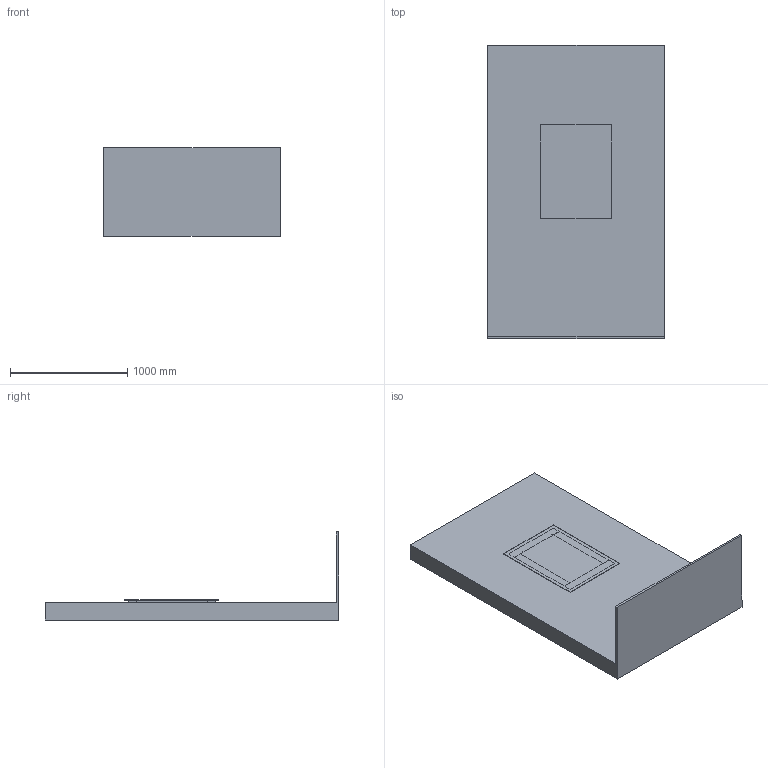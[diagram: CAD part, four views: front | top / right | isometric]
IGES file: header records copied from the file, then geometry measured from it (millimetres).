
Global section: file name: 3D Dosyası 60 cm,; native system: Autodesk Inventor 2024; preprocessor: unknown; author: pcs35; date: 20250627.131257; units: millimetre
Bounding box: 1500 x 2500 x 750 mm (x, y, z)
Volume: 585299071.2 mm3; surface area: 11922418.2 mm2
Topology: 20 solids, 20 shells, 1224 faces, 3044 edges, 1802 vertices
Faces by surface type: bspline 1224
